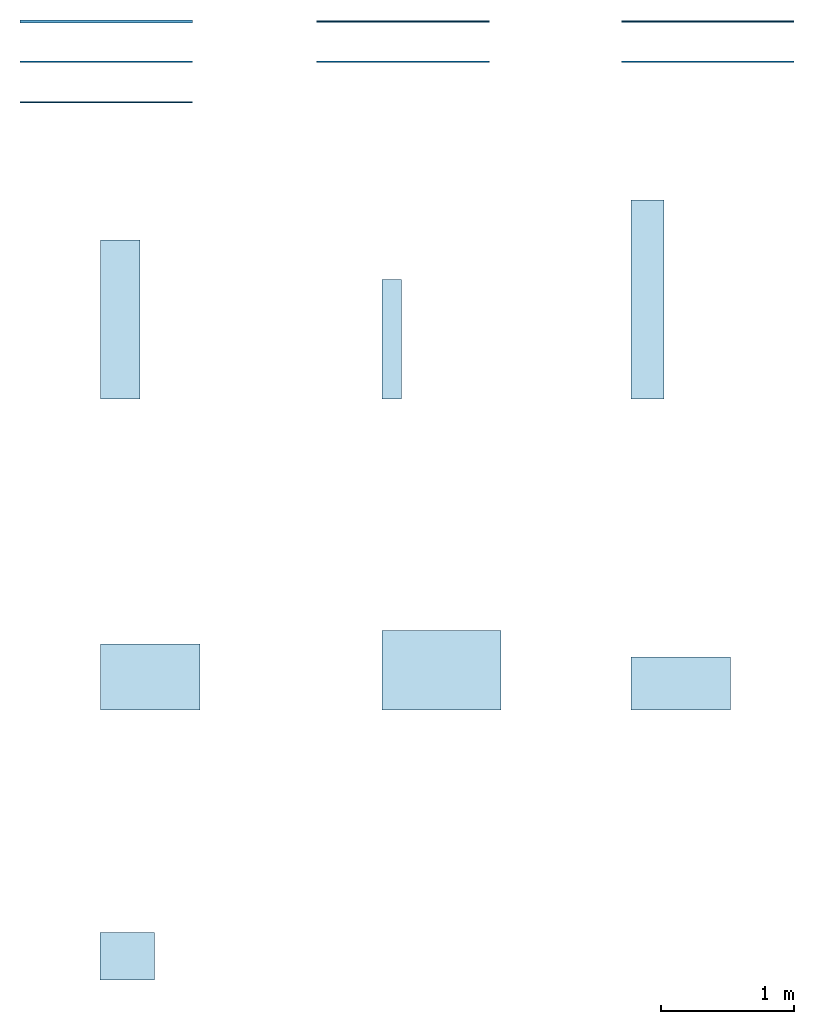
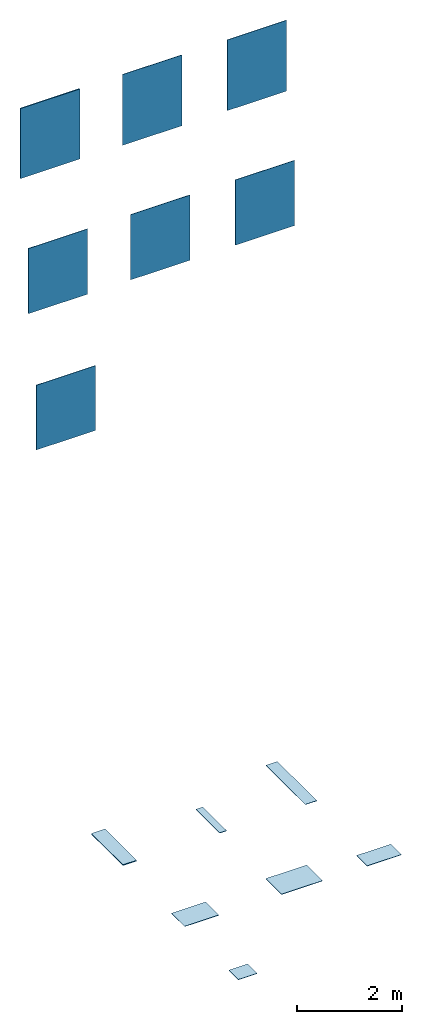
# One storey: 7 slabs, 7 walls.
"""IFC2X3 building model written with IfcOpenShell, lengths in millimetres."""

import ifcopenshell
import ifcopenshell.guid

model = None  # the IFC model being written
_history = None  # IfcOwnerHistory: only IFC2X3 demands one
_inside = {}  # id of a spatial element -> (the spatial element, [elements in it])
_under = {}  # id of a project, library or spatial element -> (it, [spatial elements below it])
_declared = {}  # id of a project -> (the project, [libraries it declares])
_typed = {}  # id of a type object -> (the type object, [elements of that type])
_made_of = {}  # id of a material, layer set ... -> (it, [elements and type objects made of it])


def new_model(schema):
    """Start an empty IFC model of exactly this schema.

    Asked for "IFC4X3", IfcOpenShell would pick the latest addendum, in which some entities
    have other attributes; the version numbers below select the first issue.
    IFC2X3 requires an IfcOwnerHistory on every rooted entity: one is made here for all.
    """
    global model, _history
    if schema == "IFC4X3":
        model = ifcopenshell.file(schema_version=(4, 3, 0, 0))
    else:
        model = ifcopenshell.file(schema=schema)
    _inside.clear()
    _under.clear()
    _declared.clear()
    _typed.clear()
    _made_of.clear()
    _history = None
    if model.schema == "IFC2X3":
        org = make("IfcOrganization", Name="unknown")
        user = make(
            "IfcPersonAndOrganization",
            ThePerson=make("IfcPerson", FamilyName="unknown"),
            TheOrganization=org,
        )
        app = make(
            "IfcApplication",
            ApplicationDeveloper=org,
            Version="unknown",
            ApplicationFullName="unknown",
            ApplicationIdentifier="unknown",
        )
        _history = make(
            "IfcOwnerHistory",
            OwningUser=user,
            OwningApplication=app,
            ChangeAction="ADDED",
            CreationDate=0,
        )
    return model


def make(cls, **values):
    """One entity of the class cls with the attributes given. An attribute that is None is left unset."""
    return model.create_entity(
        cls, **{name: value for name, value in values.items() if value is not None}
    )


def entity(cls, *values):
    """Any entity or typed value of the class cls, its attributes in the order of the schema. None: left unset."""
    e = model.create_entity(cls)
    for i, value in enumerate(values):
        if value is not None:
            e[i] = value
    return e


def rooted(cls, **values):
    """An entity with a GlobalId (a new one), such as an element, a storey or a relation."""
    return make(cls, GlobalId=ifcopenshell.guid.new(), OwnerHistory=_history, **values)


def si_unit(unit_type, name, prefix=None):
    """IfcSIUnit, for example si_unit("LENGTHUNIT", "METRE", prefix="MILLI")."""
    return make("IfcSIUnit", UnitType=unit_type, Prefix=prefix, Name=name)


def converted_unit(unit_type, name, factor, base, dimensions=None, offset=None):
    """IfcConversionBasedUnit, such as the inch: factor (a typed value) times the base unit."""
    return make(
        "IfcConversionBasedUnit"
        if offset is None
        else "IfcConversionBasedUnitWithOffset",
        ConversionOffset=offset,
        Dimensions=None
        if dimensions is None
        else entity("IfcDimensionalExponents", *dimensions),
        UnitType=unit_type,
        Name=name,
        ConversionFactor=make(
            "IfcMeasureWithUnit", ValueComponent=factor, UnitComponent=base
        ),
    )


def derived_unit(unit_type, elements):
    """IfcDerivedUnit: a product of units, each with its exponent."""
    return make(
        "IfcDerivedUnit",
        Elements=[
            make("IfcDerivedUnitElement", Unit=unit, Exponent=power)
            for unit, power in elements
        ],
        UnitType=unit_type,
    )


def assignment(units):
    """IfcUnitAssignment: the units of a project."""
    return None if units is None else make("IfcUnitAssignment", Units=units)


def point(xyz):
    """IfcCartesianPoint."""
    return None if xyz is None else make("IfcCartesianPoint", Coordinates=xyz)


def direction(xyz):
    """IfcDirection."""
    return None if xyz is None else make("IfcDirection", DirectionRatios=xyz)


def frame(location, z_axis=None, x_axis=None):
    """IfcAxis2Placement3D, a coordinate frame: its origin and axes. An axis left out is left unset."""
    return make(
        "IfcAxis2Placement3D",
        Location=point(location),
        Axis=direction(z_axis),
        RefDirection=direction(x_axis),
    )


def frame_2d(location, x_axis=None):
    """IfcAxis2Placement2D, a coordinate frame in the plane: its origin and x axis."""
    return make(
        "IfcAxis2Placement2D", Location=point(location), RefDirection=direction(x_axis)
    )


def origin():
    """The frame at (0, 0, 0) with its axes left unset."""
    return frame((0.0, 0.0, 0.0))


def place(relative_to, where):
    """IfcLocalPlacement: puts the frame where relative to a parent placement (None: the world)."""
    return make(
        "IfcLocalPlacement", PlacementRelTo=relative_to, RelativePlacement=where
    )


def context(
    kind, dimensions, precision=None, world=None, true_north=None, identifier=None
):
    """IfcGeometricRepresentationContext, for example the 3D "Model" context."""
    return make(
        "IfcGeometricRepresentationContext",
        ContextIdentifier=identifier,
        ContextType=kind,
        CoordinateSpaceDimension=dimensions,
        Precision=precision,
        WorldCoordinateSystem=world,
        TrueNorth=true_north,
    )


def subcontext(parent, identifier, kind, view, scale=None):
    """IfcGeometricRepresentationSubContext, for example "Body" below "Model"."""
    return make(
        "IfcGeometricRepresentationSubContext",
        ContextIdentifier=identifier,
        ContextType=kind,
        ParentContext=parent,
        TargetScale=scale,
        TargetView=view,
    )


def project(units=None, contexts=None):
    """IfcProject with its units and contexts."""
    return rooted(
        "IfcProject",
        Name="project",
        RepresentationContexts=contexts,
        UnitsInContext=assignment(units),
    )


def spatial(cls, under=None, at=None, **own):
    """A site, building, storey or space (cls), placed at a placement, below another one or the project."""
    s = rooted(cls, ObjectPlacement=at, **own)
    if under is not None:
        _under.setdefault(under.id(), (under, []))[1].append(s)
    return s


def profile(cls, at=None, kind="AREA", **sizes):
    """A parametric profile (cls). Its sizes go by their IFC names, for example OverallWidth=200.0."""
    return make(cls, ProfileType=kind, Position=at, **sizes)


def rectangle(**sizes):
    """IfcRectangleProfileDef."""
    return profile("IfcRectangleProfileDef", **sizes)


def extrude(swept, where, along, depth):
    """IfcExtrudedAreaSolid: the profile swept, set in the frame where, extruded along a direction by depth."""
    return make(
        "IfcExtrudedAreaSolid",
        SweptArea=swept,
        Position=where,
        ExtrudedDirection=direction(along),
        Depth=depth,
    )


def shape(context_of_items, identifier, shape_type, items):
    """IfcShapeRepresentation: the items that make up one representation, for example the "Body"."""
    return make(
        "IfcShapeRepresentation",
        ContextOfItems=context_of_items,
        RepresentationIdentifier=identifier,
        RepresentationType=shape_type,
        Items=items,
    )


def material(Name=None, Category=None):
    """IfcMaterial."""
    return make("IfcMaterial", Name=Name, Category=Category)


def layer(
    of_material, thickness, ventilated=None, Name=None, Category=None, Priority=None
):
    """IfcMaterialLayer: one layer of a wall or slab, of a material (None: an air gap)."""
    return make(
        "IfcMaterialLayer",
        Material=of_material,
        LayerThickness=thickness,
        IsVentilated=ventilated,
        Name=Name,
        Category=Category,
        Priority=Priority,
    )


def layer_set(layers, Name=None):
    """IfcMaterialLayerSet."""
    return make("IfcMaterialLayerSet", MaterialLayers=layers, LayerSetName=Name)


def layer_usage(for_layer_set, set_direction, sense, offset, extent=None):
    """IfcMaterialLayerSetUsage: how a layer set lies in its element."""
    return make(
        "IfcMaterialLayerSetUsage",
        ForLayerSet=for_layer_set,
        LayerSetDirection=set_direction,
        DirectionSense=sense,
        OffsetFromReferenceLine=offset,
        ReferenceExtent=extent,
    )


def made_of(thing, what):
    """Note that an element or type object is made of a material, layer set ...; save() writes the relation."""
    if what is not None:
        _made_of.setdefault(what.id(), (what, []))[1].append(thing)
    return thing


def type_object(cls, material=None, **own):
    """A type object (cls), such as IfcWallType, which elements share."""
    return made_of(rooted(cls, **own), material)


def element(
    cls,
    number,
    at=None,
    inside=None,
    cuts=None,
    type_object=None,
    material=None,
    context=None,
    identifier="Body",
    shape_type=None,
    held_by="IfcProductDefinitionShape",
    body=None,
    shapes=None,
    **own,
):
    """One element of the class cls, such as IfcWall. Its Tag is "e" and its number.

    at: its placement. inside: the storey or other place that contains it. cuts: it is an
    opening in that element (IfcRelVoidsElement). A single representation is given by context,
    identifier, shape_type and body (its items); several are given by shapes. held_by: the class
    of the entity that holds the representations. save() writes the other relations.
    """
    e = rooted(cls, Tag="e%d" % number, ObjectPlacement=at, **own)
    if body is not None:
        shapes = [shape(context, identifier, shape_type, body)]
    if shapes is not None:
        e.Representation = make(held_by, Representations=shapes)
    if inside is not None:
        _inside.setdefault(inside.id(), (inside, []))[1].append(e)
    if cuts is not None:
        rooted(
            "IfcRelVoidsElement", RelatingBuildingElement=cuts, RelatedOpeningElement=e
        )
    if type_object is not None:
        _typed.setdefault(type_object.id(), (type_object, []))[1].append(e)
    return made_of(e, material)


def aggregate(whole, parts):
    """IfcRelAggregates: a whole, such as a stair, and the parts it consists of."""
    return rooted("IfcRelAggregates", RelatingObject=whole, RelatedObjects=parts)


def save(model, path):
    """Write the relations noted so far, then the file.

    IfcRelAggregates (storeys below a building ...), IfcRelContainedInSpatialStructure (elements
    in a storey), IfcRelDefinesByType, IfcRelAssociatesMaterial and IfcRelDeclares: one each for
    every whole, place, type object, material and project.
    """
    for whole, parts in _under.values():
        aggregate(whole, parts)
    for where, things in _inside.values():
        rooted(
            "IfcRelContainedInSpatialStructure",
            RelatedElements=things,
            RelatingStructure=where,
        )
    for kind, things in _typed.values():
        rooted("IfcRelDefinesByType", RelatedObjects=things, RelatingType=kind)
    for what, things in _made_of.values():
        rooted("IfcRelAssociatesMaterial", RelatedObjects=things, RelatingMaterial=what)
    for by, libraries in _declared.values():
        rooted("IfcRelDeclares", RelatingContext=by, RelatedDefinitions=libraries)
    model.write(path)


model = new_model("IFC2X3")

# Units and contexts
model_context = context("Model", 3, precision=0.01, world=origin(), true_north=direction((6.12303176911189e-17, 1.0)))
body_context = subcontext(model_context, "Body", "Model", "MODEL_VIEW")
ifc_project = project(units=[si_unit("LENGTHUNIT", "METRE", prefix="MILLI"), si_unit("AREAUNIT", "SQUARE_METRE"), si_unit("VOLUMEUNIT", "CUBIC_METRE"), converted_unit("PLANEANGLEUNIT", "DEGREE", entity("IfcRatioMeasure", 0.0174532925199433), si_unit("PLANEANGLEUNIT", "RADIAN"), dimensions=[0, 0, 0, 0, 0, 0, 0]), si_unit("MASSUNIT", "GRAM", prefix="KILO"), derived_unit("MASSDENSITYUNIT", [(si_unit("MASSUNIT", "GRAM", prefix="KILO"), 1), (si_unit("LENGTHUNIT", "METRE"), -3)]), derived_unit("MOMENTOFINERTIAUNIT", [(si_unit("LENGTHUNIT", "METRE"), 4)]), si_unit("TIMEUNIT", "SECOND"), si_unit("FREQUENCYUNIT", "HERTZ"), si_unit("THERMODYNAMICTEMPERATUREUNIT", "DEGREE_CELSIUS"), derived_unit("THERMALTRANSMITTANCEUNIT", [(si_unit("MASSUNIT", "GRAM", prefix="KILO"), 1), (si_unit("THERMODYNAMICTEMPERATUREUNIT", "KELVIN"), -1), (si_unit("TIMEUNIT", "SECOND"), -3)]), derived_unit("VOLUMETRICFLOWRATEUNIT", [(si_unit("LENGTHUNIT", "METRE"), 3), (si_unit("TIMEUNIT", "SECOND"), -1)]), si_unit("ELECTRICCURRENTUNIT", "AMPERE"), si_unit("ELECTRICVOLTAGEUNIT", "VOLT"), si_unit("POWERUNIT", "WATT"), si_unit("FORCEUNIT", "NEWTON", prefix="KILO"), si_unit("ILLUMINANCEUNIT", "LUX"), si_unit("LUMINOUSFLUXUNIT", "LUMEN"), si_unit("LUMINOUSINTENSITYUNIT", "CANDELA"), derived_unit("USERDEFINED", [(si_unit("MASSUNIT", "GRAM", prefix="KILO"), -1), (si_unit("LENGTHUNIT", "METRE"), -2), (si_unit("TIMEUNIT", "SECOND"), 3), (si_unit("LUMINOUSFLUXUNIT", "LUMEN"), 1)]), derived_unit("LINEARVELOCITYUNIT", [(si_unit("LENGTHUNIT", "METRE"), 1), (si_unit("TIMEUNIT", "SECOND"), -1)]), si_unit("PRESSUREUNIT", "PASCAL"), derived_unit("USERDEFINED", [(si_unit("LENGTHUNIT", "METRE"), -2), (si_unit("MASSUNIT", "GRAM", prefix="KILO"), 1), (si_unit("TIMEUNIT", "SECOND"), -2)]), derived_unit("LINEARFORCEUNIT", [(si_unit("MASSUNIT", "GRAM", prefix="KILO"), 1), (si_unit("LENGTHUNIT", "METRE"), 1), (si_unit("TIMEUNIT", "SECOND"), -2), (si_unit("LENGTHUNIT", "METRE"), -1)]), derived_unit("PLANARFORCEUNIT", [(si_unit("MASSUNIT", "GRAM", prefix="KILO"), 1), (si_unit("LENGTHUNIT", "METRE"), 1), (si_unit("TIMEUNIT", "SECOND"), -2), (si_unit("LENGTHUNIT", "METRE"), -2)])], contexts=[model_context])

# Site, building, storey
site_placement = place(None, origin())
site = spatial("IfcSite", under=ifc_project, at=site_placement, Name="Default", CompositionType="ELEMENT")
building_placement = place(site_placement, origin())
building = spatial("IfcBuilding", under=site, at=building_placement, CompositionType="ELEMENT")
storey_placement = place(building_placement, origin())
storey = spatial("IfcBuildingStorey", under=building, at=storey_placement, Name="Level 0", CompositionType="ELEMENT", Elevation=0.0)

# Slabs
ifc_material_1 = material(Name="Cortina-Tobacco-25x150 OF84")
ifc_layer_1 = layer(ifc_material_1, 9.0)
ifc_material_2 = material(Name="<Unnamed>")
ifc_layer_2 = layer(ifc_material_2, 1.0)
ifc_layer_set_1 = layer_set([ifc_layer_1, ifc_layer_2], Name="Floor:Floor_Tiles_Refin-Cortina-Tobacco-25x150 OF84")
ifc_layer_usage_1 = layer_usage(ifc_layer_set_1, "AXIS3", "POSITIVE", 0.0)
slab_type_1 = type_object("IfcSlabType", Name="Floor:Floor_Tiles_Refin-Cortina-Tobacco-25x150 OF84", PredefinedType="FLOOR", material=ifc_layer_set_1)
slab_1_placement = place(storey_placement, origin())
element("IfcSlab", 1, at=slab_1_placement, inside=storey, type_object=slab_type_1, material=ifc_layer_usage_1, Name="Floor:Floor_Tiles_Refin-Cortina-Tobacco-25x150 OF84", ObjectType="Floor:Floor_Tiles_Refin-Cortina-Tobacco-25x150 OF84", PredefinedType="FLOOR", context=body_context, shape_type="SweptSolid", body=[
    extrude(rectangle(XDim=1500.0, YDim=249.999999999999, at=frame_2d((5.11590769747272e-13, 0.0), x_axis=(1.0, 0.0))), frame((10652.1861418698, 6039.46237428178, 0.0), z_axis=(0.0, 0.0, -1.0), x_axis=(0.0, 1.0, 0.0)), (0.0, 0.0, 1.0), 10.0),
])
ifc_material_3 = material(Name="Cortina-Tobacco-30x120 OI97")
ifc_layer_3 = layer(ifc_material_3, 20.0)
ifc_layer_4 = layer(ifc_material_2, 1.0)
ifc_layer_set_2 = layer_set([ifc_layer_3, ifc_layer_4], Name="Floor:Floor_Tiles_Refin-Cortina-Tobacco-30x120 OI97")
ifc_layer_usage_2 = layer_usage(ifc_layer_set_2, "AXIS3", "POSITIVE", 0.0)
slab_type_2 = type_object("IfcSlabType", Name="Floor:Floor_Tiles_Refin-Cortina-Tobacco-30x120 OI97", PredefinedType="FLOOR", material=ifc_layer_set_2)
slab_2_placement = place(storey_placement, origin())
element("IfcSlab", 2, at=slab_2_placement, inside=storey, type_object=slab_type_2, material=ifc_layer_usage_2, Name="Floor:Floor_Tiles_Refin-Cortina-Tobacco-30x120 OI97", ObjectType="Floor:Floor_Tiles_Refin-Cortina-Tobacco-30x120 OI97", PredefinedType="FLOOR", context=body_context, shape_type="SweptSolid", body=[
    extrude(rectangle(XDim=1200.0, YDim=300.0, at=frame_2d((0.0, -5.40012479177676e-13), x_axis=(1.0, 0.0))), frame((6674.37520617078, 5889.4623742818, 0.0), z_axis=(0.0, 0.0, -1.0), x_axis=(0.0, 1.0, 0.0)), (0.0, 0.0, 1.0), 21.0),
])
ifc_material_4 = material(Name="Cortina-Tobacco-Esagono-25x21.6 OG76")
ifc_layer_5 = layer(ifc_material_4, 9.0)
ifc_layer_6 = layer(ifc_material_2, 1.0)
ifc_layer_set_3 = layer_set([ifc_layer_5, ifc_layer_6], Name="Floor:Floor_Tiles_Refin-Cortina-Tobacco-Esagono-25x21.6 OG76")
ifc_layer_usage_3 = layer_usage(ifc_layer_set_3, "AXIS3", "POSITIVE", 0.0)
slab_type_3 = type_object("IfcSlabType", Name="Floor:Floor_Tiles_Refin-Cortina-Tobacco-Esagono-25x21.6 OG76", PredefinedType="FLOOR", material=ifc_layer_set_3)
slab_3_placement = place(storey_placement, origin())
element("IfcSlab", 3, at=slab_3_placement, inside=storey, type_object=slab_type_3, material=ifc_layer_usage_3, Name="Floor:Floor_Tiles_Refin-Cortina-Tobacco-Esagono-25x21.6 OG76", ObjectType="Floor:Floor_Tiles_Refin-Cortina-Tobacco-Esagono-25x21.6 OG76", PredefinedType="FLOOR", context=body_context, shape_type="SweptSolid", body=[
    extrude(rectangle(XDim=400.0, YDim=750.000000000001, at=frame_2d((0.0, 1.08002495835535e-12), x_axis=(1.0, 0.0))), frame((10902.1861418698, 3139.46237428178, 0.0), z_axis=(0.0, 0.0, -1.0), x_axis=(0.0, 1.0, 0.0)), (0.0, 0.0, 1.0), 10.0),
])
ifc_material_5 = material(Name="Cortina-Tobacco-Chalet-12.5x75 OG83")
ifc_layer_7 = layer(ifc_material_5, 9.0)
ifc_layer_8 = layer(ifc_material_2, 1.0)
ifc_layer_set_4 = layer_set([ifc_layer_7, ifc_layer_8], Name="Floor:Floor_Tiles_Refin-Cortina-Tobacco-Chalet-12.5x75 OG83")
ifc_layer_usage_4 = layer_usage(ifc_layer_set_4, "AXIS3", "POSITIVE", 0.0)
slab_type_4 = type_object("IfcSlabType", Name="Floor:Floor_Tiles_Refin-Cortina-Tobacco-Chalet-12.5x75 OG83", PredefinedType="FLOOR", material=ifc_layer_set_4)
slab_4_placement = place(storey_placement, origin())
element("IfcSlab", 4, at=slab_4_placement, inside=storey, type_object=slab_type_4, material=ifc_layer_usage_4, Name="Floor:Floor_Tiles_Refin-Cortina-Tobacco-Chalet-12.5x75 OG83", ObjectType="Floor:Floor_Tiles_Refin-Cortina-Tobacco-Chalet-12.5x75 OG83", PredefinedType="FLOOR", context=body_context, shape_type="SweptSolid", body=[
    extrude(rectangle(XDim=500.0, YDim=750.000000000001, at=frame_2d((0.0, 1.08002495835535e-12), x_axis=(1.0, 0.0))), frame((6899.37520617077, 3189.4623742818, 0.0), z_axis=(0.0, 0.0, -1.0), x_axis=(0.0, 1.0, 0.0)), (0.0, 0.0, 1.0), 10.0),
])
ifc_material_6 = material(Name="Cortina-Tobacco-Herringbone-36.2x41.2 OG44")
ifc_layer_9 = layer(ifc_material_6, 9.0)
ifc_layer_10 = layer(ifc_material_2, 1.0)
ifc_layer_set_5 = layer_set([ifc_layer_9, ifc_layer_10], Name="Floor:Floor_Tiles_Refin-Cortina-Tobacco-Herringbone-36.2x41.2 OG44")
ifc_layer_usage_5 = layer_usage(ifc_layer_set_5, "AXIS3", "POSITIVE", 0.0)
slab_type_5 = type_object("IfcSlabType", Name="Floor:Floor_Tiles_Refin-Cortina-Tobacco-Herringbone-36.2x41.2 OG44", PredefinedType="FLOOR", material=ifc_layer_set_5)
slab_5_placement = place(storey_placement, origin())
element("IfcSlab", 5, at=slab_5_placement, inside=storey, type_object=slab_type_5, material=ifc_layer_usage_5, Name="Floor:Floor_Tiles_Refin-Cortina-Tobacco-Herringbone-36.2x41.2 OG44", ObjectType="Floor:Floor_Tiles_Refin-Cortina-Tobacco-Herringbone-36.2x41.2 OG44", PredefinedType="FLOOR", context=body_context, shape_type="SweptSolid", body=[
    extrude(rectangle(XDim=360.0, YDim=410.0, at=frame_2d((0.0, 1.09423581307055e-12), x_axis=(1.0, 0.0))), frame((6727.60093306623, 1083.43672349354, 0.0), z_axis=(0.0, 0.0, -1.0), x_axis=(0.0, 1.0, 0.0)), (0.0, 0.0, 1.0), 10.0),
])
ifc_material_7 = material(Name="Cortina-Tobacco-15x90 OI75")
ifc_layer_11 = layer(ifc_material_7, 9.0)
ifc_layer_12 = layer(ifc_material_2, 1.0)
ifc_layer_set_6 = layer_set([ifc_layer_11, ifc_layer_12], Name="Floor:Floor_Tiles_Refin-Cortina-Tobacco-15x90 OI75")
ifc_layer_usage_6 = layer_usage(ifc_layer_set_6, "AXIS3", "POSITIVE", 0.0)
slab_type_6 = type_object("IfcSlabType", Name="Floor:Floor_Tiles_Refin-Cortina-Tobacco-15x90 OI75", PredefinedType="FLOOR", material=ifc_layer_set_6)
slab_6_placement = place(storey_placement, origin())
element("IfcSlab", 6, at=slab_6_placement, inside=storey, type_object=slab_type_6, material=ifc_layer_usage_6, Name="Floor:Floor_Tiles_Refin-Cortina-Tobacco-15x90 OI75", ObjectType="Floor:Floor_Tiles_Refin-Cortina-Tobacco-15x90 OI75", PredefinedType="FLOOR", context=body_context, shape_type="SweptSolid", body=[
    extrude(rectangle(XDim=900.0, YDim=150.000000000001, at=frame_2d((5.40012479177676e-13, 0.0), x_axis=(1.0, 0.0))), frame((8722.39240545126, 5738.41920639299, 0.0), z_axis=(0.0, 0.0, -1.0), x_axis=(0.0, 1.0, 0.0)), (0.0, 0.0, 1.0), 10.0),
])
ifc_material_8 = material(Name="Cortina-Tobacco-Chalet-15x90 OG87")
ifc_layer_13 = layer(ifc_material_8, 9.0)
ifc_layer_14 = layer(ifc_material_2, 1.0)
ifc_layer_set_7 = layer_set([ifc_layer_13, ifc_layer_14], Name="Floor:Floor_Tiles_Refin-Cortina-Tobacco-Chalet-15x90 OG87")
ifc_layer_usage_7 = layer_usage(ifc_layer_set_7, "AXIS3", "POSITIVE", 0.0)
slab_type_7 = type_object("IfcSlabType", Name="Floor:Floor_Tiles_Refin-Cortina-Tobacco-Chalet-15x90 OG87", PredefinedType="FLOOR", material=ifc_layer_set_7)
slab_7_placement = place(storey_placement, origin())
element("IfcSlab", 7, at=slab_7_placement, inside=storey, type_object=slab_type_7, material=ifc_layer_usage_7, Name="Floor:Floor_Tiles_Refin-Cortina-Tobacco-Chalet-15x90 OG87", ObjectType="Floor:Floor_Tiles_Refin-Cortina-Tobacco-Chalet-15x90 OG87", PredefinedType="FLOOR", context=body_context, shape_type="SweptSolid", body=[
    extrude(rectangle(XDim=600.0, YDim=900.0, at=frame_2d((0.0, 5.40012479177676e-13), x_axis=(1.0, 0.0))), frame((9097.39240545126, 3239.4623742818, 0.0), z_axis=(0.0, 0.0, -1.0), x_axis=(0.0, 1.0, 0.0)), (0.0, 0.0, 1.0), 10.0),
])

# Walls
ifc_layer_15 = layer(ifc_material_2, 1.0)
ifc_layer_16 = layer(ifc_material_7, 9.0)
ifc_layer_set_8 = layer_set([ifc_layer_15, ifc_layer_16], Name="Basic Wall:Wall_Tiles_Refin-Cortina-Tobacco-15x90 OI75")
ifc_layer_usage_8 = layer_usage(ifc_layer_set_8, "AXIS2", "NEGATIVE", 5.0)
wall_type_1 = type_object("IfcWallType", Name="Basic Wall:Wall_Tiles_Refin-Cortina-Tobacco-15x90 OI75", PredefinedType="STANDARD", material=ifc_layer_set_8)
wall_1_placement = place(storey_placement, frame((8157.37520617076, 8137.38386313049, 14387.6770443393)))
element("IfcWallStandardCase", 8, at=wall_1_placement, inside=storey, type_object=wall_type_1, material=ifc_layer_usage_8, Name="Basic Wall:Wall_Tiles_Refin-Cortina-Tobacco-15x90 OI75", ObjectType="Basic Wall:Wall_Tiles_Refin-Cortina-Tobacco-15x90 OI75", context=body_context, shape_type="SweptSolid", body=[
    extrude(rectangle(XDim=1300.0, YDim=9.99999999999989, at=frame_2d((650.0, 7.63833440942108e-14), x_axis=(-1.0, 0.0))), origin(), (0.0, 0.0, 1.0), 1641.74173522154),
])
ifc_layer_17 = layer(ifc_material_2, 1.0)
ifc_layer_18 = layer(ifc_material_1, 9.0)
ifc_layer_set_9 = layer_set([ifc_layer_17, ifc_layer_18], Name="Basic Wall:Wall_Tiles_Refin-Cortina-Tobacco-25x150 OF84")
ifc_layer_usage_9 = layer_usage(ifc_layer_set_9, "AXIS2", "NEGATIVE", 5.0)
wall_type_2 = type_object("IfcWallType", Name="Basic Wall:Wall_Tiles_Refin-Cortina-Tobacco-25x150 OF84", PredefinedType="STANDARD", material=ifc_layer_set_9)
wall_2_placement = place(storey_placement, frame((10457.3752061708, 8137.38386313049, 14387.6770443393)))
element("IfcWallStandardCase", 9, at=wall_2_placement, inside=storey, type_object=wall_type_2, material=ifc_layer_usage_9, Name="Basic Wall:Wall_Tiles_Refin-Cortina-Tobacco-25x150 OF84", ObjectType="Basic Wall:Wall_Tiles_Refin-Cortina-Tobacco-25x150 OF84", context=body_context, shape_type="SweptSolid", body=[
    extrude(rectangle(XDim=1300.0, YDim=9.99999999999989, at=frame_2d((650.0, 7.63833440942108e-14), x_axis=(-1.0, 0.0))), origin(), (0.0, 0.0, 1.0), 1641.74173522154),
])
ifc_layer_19 = layer(ifc_material_2, 1.0)
ifc_layer_20 = layer(ifc_material_3, 20.0)
ifc_layer_set_10 = layer_set([ifc_layer_19, ifc_layer_20], Name="Basic Wall:Wall_Tiles_Refin-Cortina-Tobacco-30x120 OI97")
ifc_layer_usage_10 = layer_usage(ifc_layer_set_10, "AXIS2", "NEGATIVE", 10.5)
wall_type_3 = type_object("IfcWallType", Name="Basic Wall:Wall_Tiles_Refin-Cortina-Tobacco-30x120 OI97", PredefinedType="STANDARD", material=ifc_layer_set_10)
wall_3_placement = place(storey_placement, frame((5917.37520617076, 8137.38386313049, 14403.726734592)))
element("IfcWallStandardCase", 10, at=wall_3_placement, inside=storey, type_object=wall_type_3, material=ifc_layer_usage_10, Name="Basic Wall:Wall_Tiles_Refin-Cortina-Tobacco-30x120 OI97", ObjectType="Basic Wall:Wall_Tiles_Refin-Cortina-Tobacco-30x120 OI97", context=body_context, shape_type="SweptSolid", body=[
    extrude(rectangle(XDim=1300.0, YDim=20.9999999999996, at=frame_2d((650.0, 7.63833440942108e-14), x_axis=(-1.0, 0.0))), origin(), (0.0, 0.0, 1.0), 1625.69204496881),
])
ifc_layer_21 = layer(ifc_material_2, 1.0)
ifc_layer_22 = layer(ifc_material_5, 9.0)
ifc_layer_set_11 = layer_set([ifc_layer_21, ifc_layer_22], Name="Basic Wall:Wall_Tiles_Refin-Cortina-Tobacco-Chalet-12.5x75 OG83")
ifc_layer_usage_11 = layer_usage(ifc_layer_set_11, "AXIS2", "NEGATIVE", 5.0)
wall_type_4 = type_object("IfcWallType", Name="Basic Wall:Wall_Tiles_Refin-Cortina-Tobacco-Chalet-12.5x75 OG83", PredefinedType="STANDARD", material=ifc_layer_set_11)
wall_4_placement = place(storey_placement, frame((5917.37520617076, 7832.38386313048, 11452.5436262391)))
element("IfcWallStandardCase", 11, at=wall_4_placement, inside=storey, type_object=wall_type_4, material=ifc_layer_usage_11, Name="Basic Wall:Wall_Tiles_Refin-Cortina-Tobacco-Chalet-12.5x75 OG83", ObjectType="Basic Wall:Wall_Tiles_Refin-Cortina-Tobacco-Chalet-12.5x75 OG83", context=body_context, shape_type="SweptSolid", body=[
    extrude(rectangle(XDim=1300.0, YDim=9.99999999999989, at=frame_2d((650.0, 0.0), x_axis=(-1.0, 0.0))), origin(), (0.0, 0.0, 1.0), 1513.19855655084),
])
ifc_layer_23 = layer(ifc_material_2, 1.0)
ifc_layer_24 = layer(ifc_material_8, 9.0)
ifc_layer_set_12 = layer_set([ifc_layer_23, ifc_layer_24], Name="Basic Wall:Wall_Tiles_Refin-Cortina-Tobacco-Chalet-15x90 OG87")
ifc_layer_usage_12 = layer_usage(ifc_layer_set_12, "AXIS2", "NEGATIVE", 5.0)
wall_type_5 = type_object("IfcWallType", Name="Basic Wall:Wall_Tiles_Refin-Cortina-Tobacco-Chalet-15x90 OG87", PredefinedType="STANDARD", material=ifc_layer_set_12)
wall_5_placement = place(storey_placement, frame((8157.37520617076, 7832.38386313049, 11452.5436262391)))
element("IfcWallStandardCase", 12, at=wall_5_placement, inside=storey, type_object=wall_type_5, material=ifc_layer_usage_12, Name="Basic Wall:Wall_Tiles_Refin-Cortina-Tobacco-Chalet-15x90 OG87", ObjectType="Basic Wall:Wall_Tiles_Refin-Cortina-Tobacco-Chalet-15x90 OG87", context=body_context, shape_type="SweptSolid", body=[
    extrude(rectangle(XDim=1300.0, YDim=9.99999999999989, at=frame_2d((650.0, 0.0), x_axis=(-1.0, 0.0))), origin(), (0.0, 0.0, 1.0), 1513.19855655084),
])
ifc_layer_25 = layer(ifc_material_2, 1.0)
ifc_layer_26 = layer(ifc_material_4, 9.0)
ifc_layer_set_13 = layer_set([ifc_layer_25, ifc_layer_26], Name="Basic Wall:Wall_Tiles_Refin-Cortina-Tobacco-Esagono-25x21.6 OG76")
ifc_layer_usage_13 = layer_usage(ifc_layer_set_13, "AXIS2", "NEGATIVE", 5.0)
wall_type_6 = type_object("IfcWallType", Name="Basic Wall:Wall_Tiles_Refin-Cortina-Tobacco-Esagono-25x21.6 OG76", PredefinedType="STANDARD", material=ifc_layer_set_13)
wall_6_placement = place(storey_placement, frame((10457.3752061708, 7832.38386313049, 11452.5436262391)))
element("IfcWallStandardCase", 13, at=wall_6_placement, inside=storey, type_object=wall_type_6, material=ifc_layer_usage_13, Name="Basic Wall:Wall_Tiles_Refin-Cortina-Tobacco-Esagono-25x21.6 OG76", ObjectType="Basic Wall:Wall_Tiles_Refin-Cortina-Tobacco-Esagono-25x21.6 OG76", context=body_context, shape_type="SweptSolid", body=[
    extrude(rectangle(XDim=1300.0, YDim=9.99999999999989, at=frame_2d((650.000000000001, 0.0), x_axis=(-1.0, 0.0))), origin(), (0.0, 0.0, 1.0), 1513.19855655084),
])
ifc_layer_27 = layer(ifc_material_2, 1.0)
ifc_layer_28 = layer(ifc_material_6, 9.0)
ifc_layer_set_14 = layer_set([ifc_layer_27, ifc_layer_28], Name="Basic Wall:Wall_Tiles_Refin-Cortina-Tobacco-Herringbone-36.2x41.2 OG44")
ifc_layer_usage_14 = layer_usage(ifc_layer_set_14, "AXIS2", "NEGATIVE", 5.0)
wall_type_7 = type_object("IfcWallType", Name="Basic Wall:Wall_Tiles_Refin-Cortina-Tobacco-Herringbone-36.2x41.2 OG44", PredefinedType="STANDARD", material=ifc_layer_set_14)
wall_7_placement = place(storey_placement, frame((5917.37520617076, 7527.38386313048, 8479.10272143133)))
element("IfcWallStandardCase", 14, at=wall_7_placement, inside=storey, type_object=wall_type_7, material=ifc_layer_usage_14, Name="Basic Wall:Wall_Tiles_Refin-Cortina-Tobacco-Herringbone-36.2x41.2 OG44", ObjectType="Basic Wall:Wall_Tiles_Refin-Cortina-Tobacco-Herringbone-36.2x41.2 OG44", context=body_context, shape_type="SweptSolid", body=[
    extrude(rectangle(XDim=1300.0, YDim=9.99999999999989, at=frame_2d((650.0, 0.0), x_axis=(-1.0, 0.0))), origin(), (0.0, 0.0, 1.0), 1502.57401590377),
])

save(model, "model.ifc")
